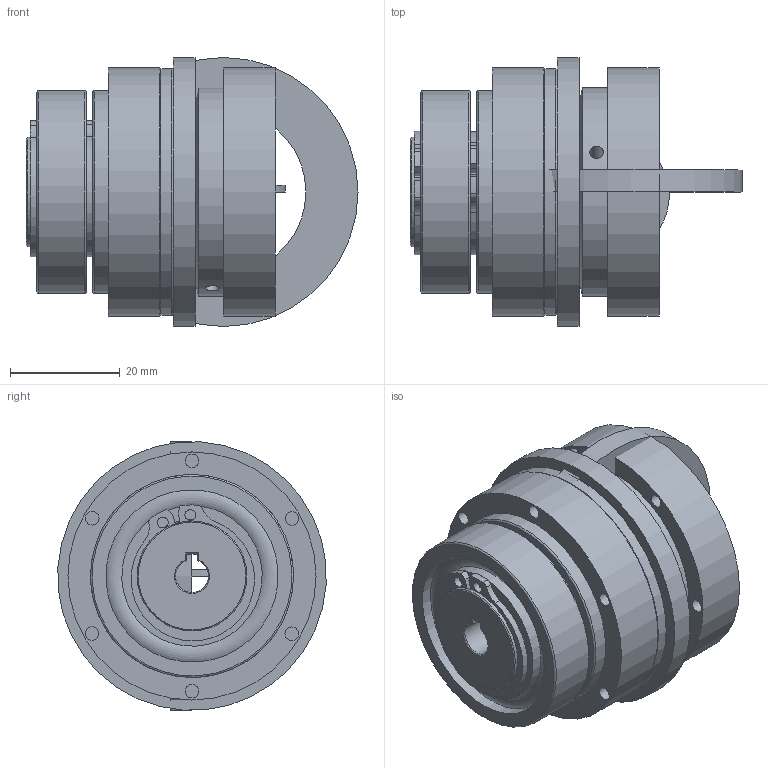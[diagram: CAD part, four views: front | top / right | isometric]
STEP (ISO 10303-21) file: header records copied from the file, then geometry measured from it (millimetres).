
FILE_DESCRIPTION( ( 'Unknown' ), '1' );
FILE_NAME( 'C:/Dokumente und Einstellungen/Sven/Desktop/hp kbk/KBK LL-P-10.stp', 'Unknown', ( 'Unknown' ), ( 'Unknown' ), 'XStep 1.0', 'Unknown', ' ' );
FILE_SCHEMA( ( 'automotive_design' ) );
Length unit declared in the file: millimetre
Products named in the file (10): Assem1; Assem2; ball_bearing_-_61904_0_01_0; ball_bearing_-_61904_0_02_0; ball_bearing_-_61904_0_03_0; Druckring 10_0; a_20_0; Kupplung LL-P-10 Grundkörper_0; Flansch L-LL10_0; Stellring 10_0
Bounding box: 60.5 x 48.87 x 49 mm (x, y, z)
Volume: 80874.6 mm3; surface area: 59192.7 mm2
Topology: 23 solids, 23 shells, 246 faces, 500 edges, 314 vertices
Faces by surface type: cylinder 104, plane 94, torus 32, cone 16
Full cylindrical faces by diameter (mm): 2 x6, 2.459 x16, 19 x4, 20 x10, 24 x4, 25 x2, 25.6 x8, 29 x2, 29.993 x2, 31.4 x8, 37 x6, 38 x2, 40 x2, 45 x2, 45.2 x2, 49 x2
Entity records: 2637 total; most frequent: CARTESIAN_POINT 494, DIRECTION 448, ORIENTED_EDGE 276, AXIS2_PLACEMENT_3D 204, EDGE_LOOP 176, EDGE_CURVE 138, FACE_OUTER_BOUND 137, VERTEX_POINT 114
